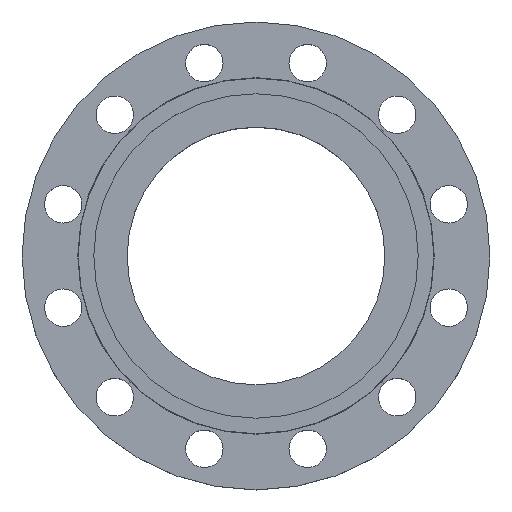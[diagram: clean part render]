
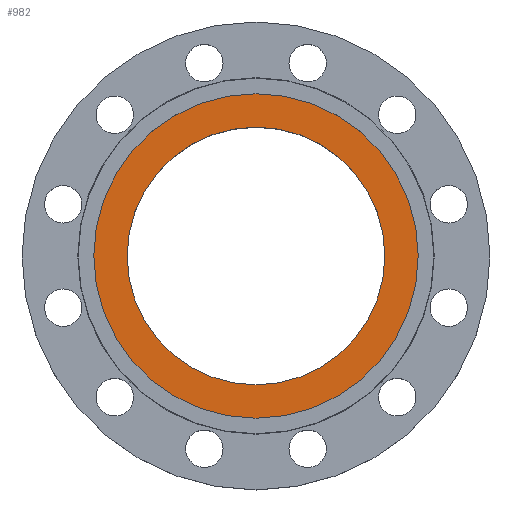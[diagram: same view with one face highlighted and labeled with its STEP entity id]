
A CAD part, top view. The second image highlights one B-rep face of the part: STEP entity #982.
In plain terms, the highlighted planar face has unit normal (0, 0, 1).
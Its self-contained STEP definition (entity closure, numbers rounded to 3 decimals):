
#50 = CARTESIAN_POINT ( 'NONE',  ( -103.25, 0., -4.5 ) ) ;
#59 = CARTESIAN_POINT ( 'NONE',  ( -130., 0., -4.5 ) ) ;
#193 = VERTEX_POINT ( 'NONE', #59 ) ;
#203 = VERTEX_POINT ( 'NONE', #50 ) ;
#280 = CIRCLE ( 'NONE', #284, 130. ) ;
#284 = AXIS2_PLACEMENT_3D ( 'NONE', #1266, #300, #767 ) ;
#300 = DIRECTION ( 'NONE',  ( 0., 0., -1. ) ) ;
#330 = EDGE_LOOP ( 'NONE', ( #799, #800 ) ) ;
#355 = CARTESIAN_POINT ( 'NONE',  ( 103.25, 0., -4.5 ) ) ;
#360 = DIRECTION ( 'NONE',  ( 1., 0., 0. ) ) ;
#366 = EDGE_CURVE ( 'NONE', #1013, #203, #639, .T. ) ;
#387 = DIRECTION ( 'NONE',  ( 0., 0., -1. ) ) ;
#438 = EDGE_LOOP ( 'NONE', ( #822, #832 ) ) ;
#465 = CARTESIAN_POINT ( 'NONE',  ( 130., 0., -4.5 ) ) ;
#541 = DIRECTION ( 'NONE',  ( 0., 0., -1. ) ) ;
#584 = VERTEX_POINT ( 'NONE', #1369 ) ;
#589 = FACE_BOUND ( 'NONE', #330, .T. ) ;
#620 = EDGE_CURVE ( 'NONE', #203, #1013, #1320, .T. ) ;
#637 = AXIS2_PLACEMENT_3D ( 'NONE', #1443, #541, #1007 ) ;
#639 = CIRCLE ( 'NONE', #637, 103.25 ) ;
#676 = AXIS2_PLACEMENT_3D ( 'NONE', #1311, #387, #838 ) ;
#752 = CIRCLE ( 'NONE', #676, 130. ) ;
#767 = DIRECTION ( 'NONE',  ( -1., 0., 0. ) ) ;
#778 = AXIS2_PLACEMENT_3D ( 'NONE', #938, #1293, #360 ) ;
#799 = ORIENTED_EDGE ( 'NONE', *, *, #620, .T. ) ;
#800 = ORIENTED_EDGE ( 'NONE', *, *, #366, .T. ) ;
#822 = ORIENTED_EDGE ( 'NONE', *, *, #1364, .F. ) ;
#832 = ORIENTED_EDGE ( 'NONE', *, *, #1045, .F. ) ;
#838 = DIRECTION ( 'NONE',  ( -1., 0., 0. ) ) ;
#925 = DIRECTION ( 'NONE',  ( 0., 0., 1. ) ) ;
#938 = CARTESIAN_POINT ( 'NONE',  ( 0., 0., -4.5 ) ) ;
#982 = ADVANCED_FACE ( 'NONE', ( #589, #1043 ), #1363, .T. ) ;
#1007 = DIRECTION ( 'NONE',  ( 1., 0., 0. ) ) ;
#1013 = VERTEX_POINT ( 'NONE', #355 ) ;
#1043 = FACE_OUTER_BOUND ( 'NONE', #438, .T. ) ;
#1045 = EDGE_CURVE ( 'NONE', #584, #193, #752, .T. ) ;
#1116 = AXIS2_PLACEMENT_3D ( 'NONE', #465, #925, #1283 ) ;
#1266 = CARTESIAN_POINT ( 'NONE',  ( 0., 0., -4.5 ) ) ;
#1283 = DIRECTION ( 'NONE',  ( 1., 0., 0. ) ) ;
#1293 = DIRECTION ( 'NONE',  ( 0., 0., -1. ) ) ;
#1311 = CARTESIAN_POINT ( 'NONE',  ( 0., 0., -4.5 ) ) ;
#1320 = CIRCLE ( 'NONE', #778, 103.25 ) ;
#1363 = PLANE ( 'NONE',  #1116 ) ;
#1364 = EDGE_CURVE ( 'NONE', #193, #584, #280, .T. ) ;
#1369 = CARTESIAN_POINT ( 'NONE',  ( 130., 0., -4.5 ) ) ;
#1443 = CARTESIAN_POINT ( 'NONE',  ( 0., 0., -4.5 ) ) ;
